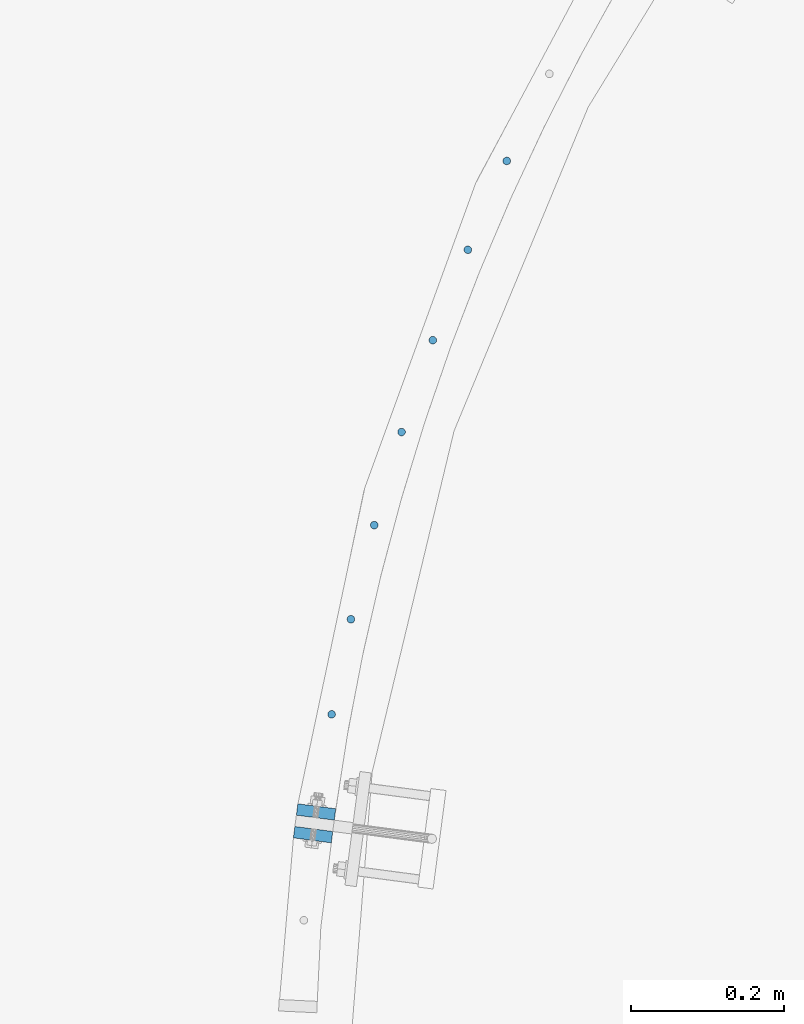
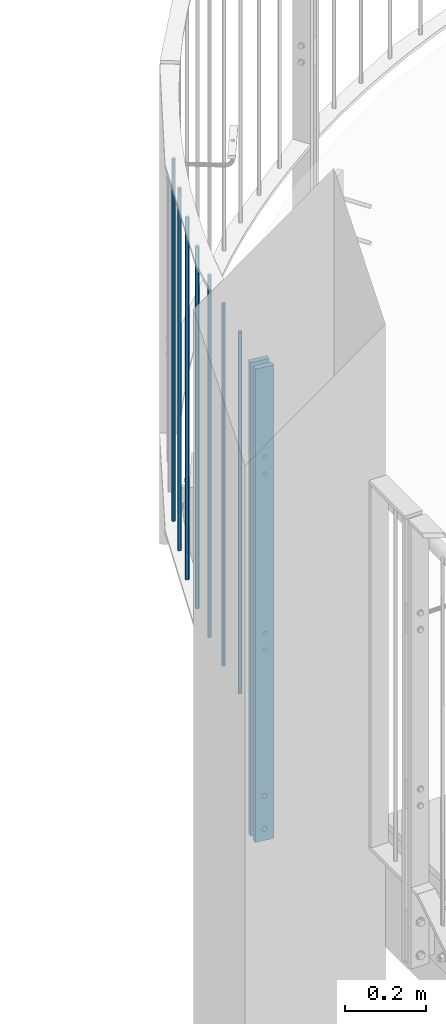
# One storey, part 59 of 296: 9 columns, 12 openings.
"""IFC2X3 building model written with IfcOpenShell, lengths in millimetres."""

from ifc_helpers import new_model, entity, si_unit, converted_unit, frame, frame_2d, origin, origin_with_axes, origin_2d, place, context, project, spatial, rectangle, circle, extrude, material, element, save


model = new_model("IFC2X3")

# Units and contexts
model_context = context("Model", 3, precision=1e-09, world=origin_with_axes())
ifc_project = project(units=[si_unit("LENGTHUNIT", "METRE", prefix="MILLI"), si_unit("AREAUNIT", "SQUARE_METRE"), si_unit("VOLUMEUNIT", "CUBIC_METRE"), converted_unit("PLANEANGLEUNIT", "DEGREE", entity("IfcPlaneAngleMeasure", 0.01745329), si_unit("PLANEANGLEUNIT", "RADIAN"), dimensions=[0, 0, 0, 0, 0, 0, 0])], contexts=[model_context])

# Site, building, storey
site_placement = place(None, origin_with_axes())
site = spatial("IfcSite", under=ifc_project, at=site_placement, Name="TZD-S?d | Treppenhausgel?nder", CompositionType="ELEMENT")
building_placement = place(site_placement, origin_with_axes())
building = spatial("IfcBuilding", under=site, at=building_placement, Name="Struktur 1", CompositionType="ELEMENT")
storey_placement = place(building_placement, origin_with_axes())
storey = spatial("IfcBuildingStorey", under=building, at=storey_placement, Name="Default Storey", CompositionType="ELEMENT", Elevation=0.0)

# Columns
ifc_material = material(Name="S235JR")
for number, where, z_axis, x_axis in (
    (1, (-17.115279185, 432.965487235, 7350.0), (0.0, 0.0, 1.0), (0.0, 1.0, 0.0)),
    (2, (8.162299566, 557.381027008, 7350.0), (0.0, 0.0, 1.0), (0.0, 1.0, 0.0)),
    (3, (38.69866828, 680.611350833, 7350.0), (0.0, 0.0, 1.0), (0.0, 1.0, 0.0)),
    (4, (74.438772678, 802.43428571, 7350.0), (0.0, 0.0, 1.0), (0.0, 1.0, 0.0)),
    (5, (115.31817662, 922.63019603, 7350.0), (0.0, 0.0, 1.0), (0.0, 1.0, 0.0)),
    (6, (161.263178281, 1040.982379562, 7350.0), (0.0, 0.0, 1.0), (0.0, 1.0, 0.0)),
    (7, (212.190943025, 1157.277458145, 7350.0), (0.0, 0.0, 1.0), (0.0, 1.0, 0.0)),
):
    element("IfcColumn", number, at=place(None, frame(where, z_axis=z_axis, x_axis=x_axis)), inside=storey, material=ifc_material, Name="-", ObjectType="-", context=model_context, shape_type="SweptSolid", body=[
        extrude(circle(Radius=5.0, at=origin_2d()), origin(), (0.0, 0.0, 1.0), 1090.0),
    ])

# Column, openings
column_1_placement = place(None, frame((-37.462242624, 305.144987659, 7015.001), z_axis=(0.0, 0.0, -1.0), x_axis=(-0.130526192, -0.991444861, 0.0)))
column_1 = element("IfcColumn", 8, at=column_1_placement, inside=storey, material=ifc_material, Name="-", ObjectType="-", context=model_context, shape_type="SweptSolid", body=[
    extrude(rectangle(XDim=15.0, YDim=50.0, at=origin_2d()), origin(), (0.0, 0.0, -1.0), 1424.999),
])
opening_1_placement = place(column_1_placement, frame((-8.0, 0.0, -599.999999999), z_axis=(1.0, 0.0, 0.0), x_axis=(0.0, -1.0, 0.0)))
element("IfcOpeningElement", 9, at=opening_1_placement, cuts=column_1, ObjectType="Opening", context=model_context, shape_type="SweptSolid", body=[
    extrude(circle(Radius=5.001, at=frame_2d((0.0, 25.0), x_axis=(1.0, 0.0))), origin(), (0.0, 0.0, 1.0), 16.0),
])
opening_2_placement = place(column_1_placement, frame((-8.0, 0.0, -599.999999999), z_axis=(1.0, 0.0, 0.0), x_axis=(0.0, -1.0, 0.0)))
element("IfcOpeningElement", 10, at=opening_2_placement, cuts=column_1, ObjectType="Opening", context=model_context, shape_type="SweptSolid", body=[
    extrude(circle(Radius=5.001, at=frame_2d((0.0, -25.0), x_axis=(1.0, 0.0))), origin(), (0.0, 0.0, 1.0), 16.0),
])
opening_3_placement = place(column_1_placement, frame((-8.0, 0.0, -1129.999999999), z_axis=(1.0, 0.0, 0.0), x_axis=(0.0, -1.0, 0.0)))
element("IfcOpeningElement", 11, at=opening_3_placement, cuts=column_1, ObjectType="Opening", context=model_context, shape_type="SweptSolid", body=[
    extrude(circle(Radius=5.001, at=frame_2d((0.0, 25.0), x_axis=(1.0, 0.0))), origin(), (0.0, 0.0, 1.0), 16.0),
])
opening_4_placement = place(column_1_placement, frame((-8.0, 0.0, -1129.999999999), z_axis=(1.0, 0.0, 0.0), x_axis=(0.0, -1.0, 0.0)))
element("IfcOpeningElement", 12, at=opening_4_placement, cuts=column_1, ObjectType="Opening", context=model_context, shape_type="SweptSolid", body=[
    extrude(circle(Radius=5.001, at=frame_2d((0.0, -25.0), x_axis=(1.0, 0.0))), origin(), (0.0, 0.0, 1.0), 16.0),
])
opening_5_placement = place(column_1_placement, frame((-8.0, 0.0, -85.0), z_axis=(1.0, 0.0, 0.0), x_axis=(0.0, -1.0, 0.0)))
element("IfcOpeningElement", 13, at=opening_5_placement, cuts=column_1, ObjectType="Opening", context=model_context, shape_type="SweptSolid", body=[
    extrude(circle(Radius=7.001, at=frame_2d((0.0, 50.0), x_axis=(1.0, 0.0))), origin(), (0.0, 0.0, 1.0), 16.0),
])
opening_6_placement = place(column_1_placement, frame((-8.0, 0.0, -85.0), z_axis=(1.0, 0.0, 0.0), x_axis=(0.0, -1.0, 0.0)))
element("IfcOpeningElement", 14, at=opening_6_placement, cuts=column_1, ObjectType="Opening", context=model_context, shape_type="SweptSolid", body=[
    extrude(circle(Radius=7.001, at=frame_2d((0.0, -50.0), x_axis=(1.0, 0.0))), origin(), (0.0, 0.0, 1.0), 16.0),
])

column_2_placement = place(None, frame((-41.378028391, 275.401641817, 7015.001), z_axis=(0.0, 0.0, 1.0), x_axis=(0.130526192, 0.991444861, 0.0)))
column_2 = element("IfcColumn", 15, at=column_2_placement, inside=storey, material=ifc_material, Name="-", ObjectType="-", context=model_context, shape_type="SweptSolid", body=[
    extrude(rectangle(XDim=15.0, YDim=50.0, at=origin_2d()), origin(), (0.0, 0.0, 1.0), 1424.999),
])
opening_7_placement = place(column_2_placement, frame((8.0, 0.0, 1129.999999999), z_axis=(-1.0, 0.0, 0.0), x_axis=(0.0, -1.0, 0.0)))
element("IfcOpeningElement", 16, at=opening_7_placement, cuts=column_2, ObjectType="Opening", context=model_context, shape_type="SweptSolid", body=[
    extrude(circle(Radius=5.001, at=frame_2d((0.0, 25.0), x_axis=(1.0, 0.0))), origin(), (0.0, 0.0, 1.0), 16.0),
])
opening_8_placement = place(column_2_placement, frame((8.0, 0.0, 1129.999999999), z_axis=(-1.0, 0.0, 0.0), x_axis=(0.0, -1.0, 0.0)))
element("IfcOpeningElement", 17, at=opening_8_placement, cuts=column_2, ObjectType="Opening", context=model_context, shape_type="SweptSolid", body=[
    extrude(circle(Radius=5.001, at=frame_2d((0.0, -25.0), x_axis=(1.0, 0.0))), origin(), (0.0, 0.0, 1.0), 16.0),
])
opening_9_placement = place(column_2_placement, frame((8.0, 0.0, 599.999999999), z_axis=(-1.0, 0.0, 0.0), x_axis=(0.0, -1.0, 0.0)))
element("IfcOpeningElement", 18, at=opening_9_placement, cuts=column_2, ObjectType="Opening", context=model_context, shape_type="SweptSolid", body=[
    extrude(circle(Radius=5.001, at=frame_2d((0.0, 25.0), x_axis=(1.0, 0.0))), origin(), (0.0, 0.0, 1.0), 16.0),
])
opening_10_placement = place(column_2_placement, frame((8.0, 0.0, 599.999999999), z_axis=(-1.0, 0.0, 0.0), x_axis=(0.0, -1.0, 0.0)))
element("IfcOpeningElement", 19, at=opening_10_placement, cuts=column_2, ObjectType="Opening", context=model_context, shape_type="SweptSolid", body=[
    extrude(circle(Radius=5.001, at=frame_2d((0.0, -25.0), x_axis=(1.0, 0.0))), origin(), (0.0, 0.0, 1.0), 16.0),
])
opening_11_placement = place(column_2_placement, frame((8.0, 0.0, 85.0), z_axis=(-1.0, 0.0, 0.0), x_axis=(0.0, -1.0, 0.0)))
element("IfcOpeningElement", 20, at=opening_11_placement, cuts=column_2, ObjectType="Opening", context=model_context, shape_type="SweptSolid", body=[
    extrude(circle(Radius=7.001, at=frame_2d((0.0, 50.0), x_axis=(1.0, 0.0))), origin(), (0.0, 0.0, 1.0), 16.0),
])
opening_12_placement = place(column_2_placement, frame((8.0, 0.0, 85.0), z_axis=(-1.0, 0.0, 0.0), x_axis=(0.0, -1.0, 0.0)))
element("IfcOpeningElement", 21, at=opening_12_placement, cuts=column_2, ObjectType="Opening", context=model_context, shape_type="SweptSolid", body=[
    extrude(circle(Radius=7.001, at=frame_2d((0.0, -50.0), x_axis=(1.0, 0.0))), origin(), (0.0, 0.0, 1.0), 16.0),
])

save(model, "model.ifc")
